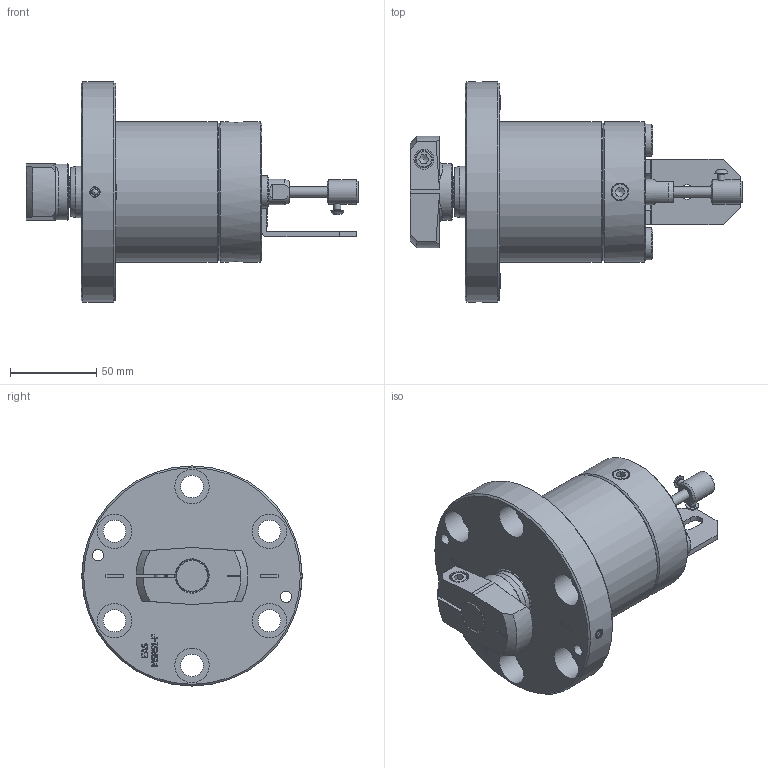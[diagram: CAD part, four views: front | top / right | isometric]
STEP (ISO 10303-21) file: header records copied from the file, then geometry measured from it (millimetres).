
FILE_DESCRIPTION(/* description */ (''),/* implementation_level */ '2;1');
FILE_NAME(/* name */ 'Z:\Standard products\2. QDC Clamping Systems\5. MSR - 2 Pos. Swing Clamp\MSR51-FP (21-12-18).pdf.stp',/* time_stamp */ '2018-12-21T07:44:05+01:00',/* author */ ('breep'),/* organization */ (''),/* preprocessor_version */ 'ST-DEVELOPER v16.1',/* originating_system */ 'Autodesk Inventor 2016',/* authorisation */ '');
FILE_SCHEMA (('AUTOMOTIVE_DESIGN { 1 0 10303 214 3 1 1 }'));
Length unit declared in the file: millimetre
Products named in the file (1): Part1
Bounding box: 193 x 127.95 x 127.95 mm (x, y, z)
Volume: 7693.1 mm3; surface area: 153661.3 mm2
Topology: 33 solids, 79 shells, 1099 faces, 2649 edges, 1706 vertices
Faces by surface type: plane 505, cylinder 244, cone 178, bspline 98, torus 60, sphere 14
Full cylindrical faces by diameter (mm): 1.7 x4, 4 x8, 4.134 x2, 4.2 x2, 4.4 x1, 4.8 x2, 4.917 x2, 5 x16, 5.1 x2, 5.5 x2, 5.6 x2, 5.95 x2, 6 x25, 6.02 x1, 6.05 x1, 6.5 x1, 6.647 x10, 7 x1, 8 x8, 8.5 x1, 8.8 x2, 9 x8, 9.8 x6, 10 x6, 10.106 x4, 11.2 x2, 11.445 x4, 11.5 x1, 11.6 x2, 12.4 x1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
Entity records: 35207 total; most frequent: CARTESIAN_POINT 12018, DIRECTION 4263, ORIENTED_EDGE 4068, EDGE_CURVE 2009, AXIS2_PLACEMENT_3D 1712, EDGE_LOOP 1698, VERTEX_POINT 1503, STYLED_ITEM 1099
